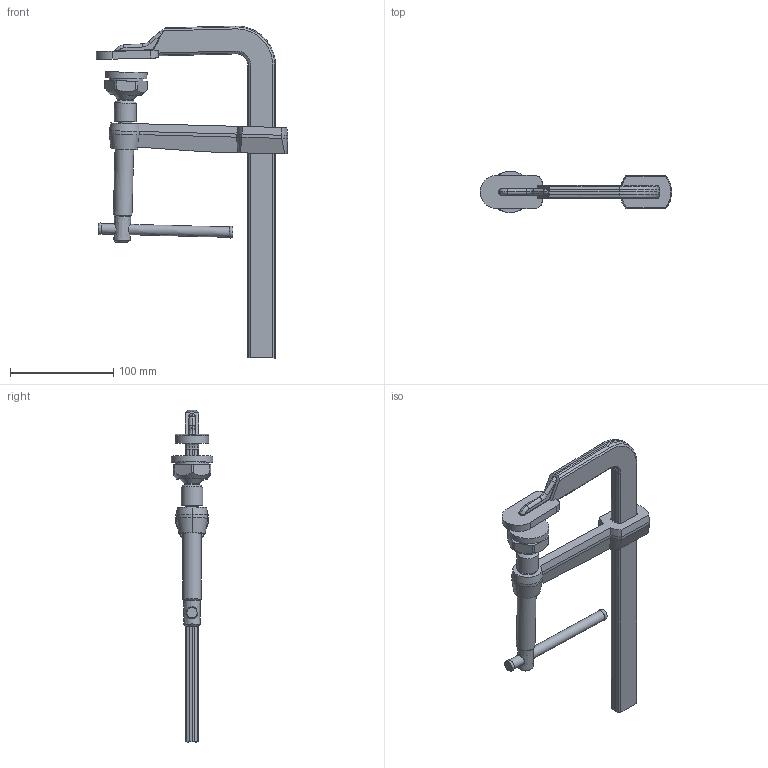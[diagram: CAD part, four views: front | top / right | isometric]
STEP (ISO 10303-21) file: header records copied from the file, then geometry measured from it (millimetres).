
FILE_DESCRIPTION( ('This file contains a STEP AP42 implementation' ,'as created by ZW3D STEP Interface translator.') ,'2;1' );
FILE_NAME( 'M-SGL20.stp' ,'20 630.13 0 6', (''), ('ZWCAD Software Co.'), 'Version 1.0', 'ZW3D to STEP translator', '' );
FILE_SCHEMA(('AUTOMOTIVE_DESIGN'));
Length unit declared in the file: millimetre
Products named in the file (2): 0; M-SGL20
Bounding box: 185.04 x 39.98 x 320.99 mm (x, y, z)
Volume: 275828 mm3; surface area: 70849.2 mm2
Topology: 5 solids, 5 shells, 161 faces, 368 edges, 221 vertices
Faces by surface type: bspline 161
Entity records: 5506 total; most frequent: CARTESIAN_POINT 3176, ORIENTED_EDGE 736, EDGE_CURVE 368, VERTEX_POINT 221, B_SPLINE_CURVE_WITH_KNOTS 221, EDGE_LOOP 171, FACE_OUTER_BOUND 161, ADVANCED_FACE 161
